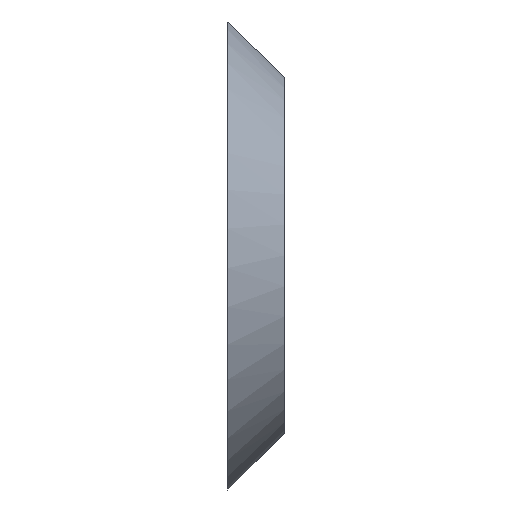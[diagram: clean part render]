
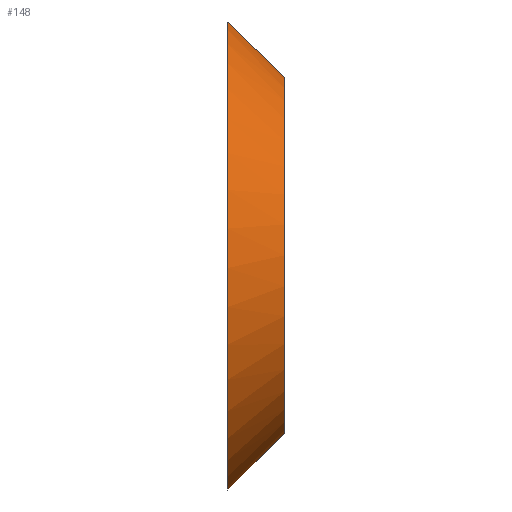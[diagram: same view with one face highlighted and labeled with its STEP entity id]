
A CAD part, left-side view. The second image highlights one B-rep face of the part: STEP entity #148.
In plain terms, the highlighted conical face has half-angle 45 degrees and reference radius 2.5 mm.
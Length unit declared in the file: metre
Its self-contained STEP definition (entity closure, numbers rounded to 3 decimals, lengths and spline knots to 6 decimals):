
#15=CONICAL_SURFACE('',#187,0.0025,0.785);
#17=B_SPLINE_CURVE_WITH_KNOTS('',3,(#276,#277,#278,#279),.UNSPECIFIED.,
 .F.,.F.,(4,4),(0.,0.001174),.UNSPECIFIED.);
#20=CIRCLE('',#183,0.0033);
#21=CIRCLE('',#185,0.0025);
#50=ORIENTED_EDGE('',*,*,#75,.F.);
#51=ORIENTED_EDGE('',*,*,#67,.F.);
#52=ORIENTED_EDGE('',*,*,#73,.F.);
#53=ORIENTED_EDGE('',*,*,#71,.F.);
#67=EDGE_CURVE('',#82,#83,#20,.F.);
#71=EDGE_CURVE('',#85,#87,#21,.T.);
#73=EDGE_CURVE('',#87,#82,#98,.T.);
#75=EDGE_CURVE('',#83,#85,#17,.T.);
#82=VERTEX_POINT('',#260);
#83=VERTEX_POINT('',#261);
#85=VERTEX_POINT('',#267);
#87=VERTEX_POINT('',#270);
#98=LINE('',#273,#110);
#110=VECTOR('',#227,1.);
#120=EDGE_LOOP('',(#50,#51,#52,#53));
#130=FACE_BOUND('',#120,.T.);
#148=ADVANCED_FACE('',(#130),#15,.T.);
#183=AXIS2_PLACEMENT_3D('',#259,#215,#216);
#185=AXIS2_PLACEMENT_3D('',#269,#222,#223);
#187=AXIS2_PLACEMENT_3D('',#275,#229,#230);
#215=DIRECTION('',(0.,-1.,0.));
#216=DIRECTION('',(0.,0.,-1.));
#222=DIRECTION('',(0.,-1.,0.));
#223=DIRECTION('',(0.,0.,-1.));
#227=DIRECTION('',(0.,0.707,-0.707));
#229=DIRECTION('',(0.,1.,0.));
#230=DIRECTION('',(0.,0.,1.));
#259=CARTESIAN_POINT('',(-0.005,0.,0.));
#260=CARTESIAN_POINT('',(-0.005,0.,-0.0033));
#261=CARTESIAN_POINT('',(-0.005359,0.,0.00328));
#267=CARTESIAN_POINT('',(-0.005,-0.0008,0.0025));
#269=CARTESIAN_POINT('',(-0.005,-0.0008,0.));
#270=CARTESIAN_POINT('',(-0.005,-0.0008,-0.0025));
#273=CARTESIAN_POINT('',(-0.005,-0.0008,-0.0025));
#275=CARTESIAN_POINT('',(-0.005,-0.0008,0.));
#276=CARTESIAN_POINT('',(-0.005359,0.,0.00328));
#277=CARTESIAN_POINT('',(-0.00524,-0.000269,0.003023));
#278=CARTESIAN_POINT('',(-0.005121,-0.000537,0.002763));
#279=CARTESIAN_POINT('',(-0.005,-0.0008,0.0025));
